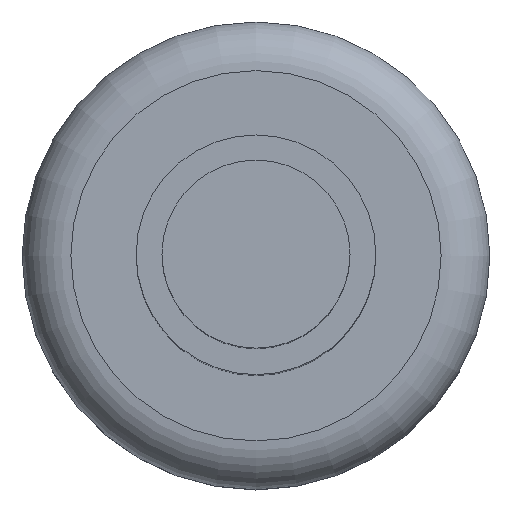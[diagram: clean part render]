
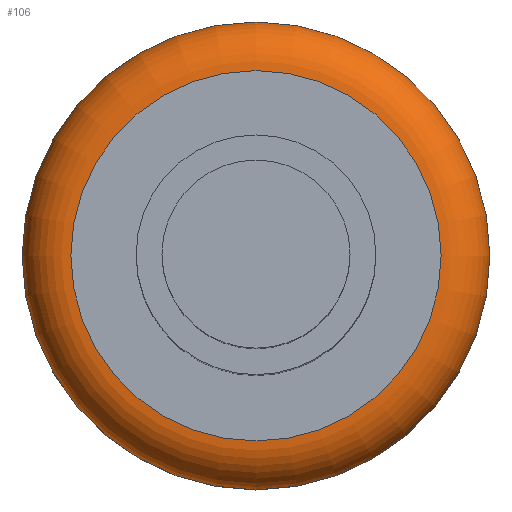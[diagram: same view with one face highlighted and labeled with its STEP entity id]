
A CAD part, top view. The second image highlights one B-rep face of the part: STEP entity #106.
In plain terms, the highlighted toroidal (fillet/blend) face has major radius 1.9 mm and minor radius 0.5 mm.
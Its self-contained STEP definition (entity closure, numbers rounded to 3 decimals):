
#35=TOROIDAL_SURFACE('',#280,1.9,0.5);
#106=ADVANCED_FACE('',(#124,#125),#35,.T.);
#124=FACE_BOUND('',#148,.T.);
#125=FACE_BOUND('',#149,.T.);
#148=EDGE_LOOP('',(#200));
#149=EDGE_LOOP('',(#201));
#200=ORIENTED_EDGE('',*,*,#225,.F.);
#201=ORIENTED_EDGE('',*,*,#226,.F.);
#205=VERTEX_POINT('',#359);
#206=VERTEX_POINT('',#362);
#225=EDGE_CURVE('',#205,#205,#251,.T.);
#226=EDGE_CURVE('',#206,#206,#252,.T.);
#251=CIRCLE('',#262,2.4);
#252=CIRCLE('',#264,1.9);
#262=AXIS2_PLACEMENT_3D('',#358,#293,#294);
#264=AXIS2_PLACEMENT_3D('',#361,#297,#298);
#280=AXIS2_PLACEMENT_3D('',#411,#347,#348);
#293=DIRECTION('',(0.,0.,-1.));
#294=DIRECTION('',(1.,0.,0.));
#297=DIRECTION('',(0.,0.,1.));
#298=DIRECTION('',(1.,0.,0.));
#347=DIRECTION('',(0.,0.,1.));
#348=DIRECTION('',(1.,0.,0.));
#358=CARTESIAN_POINT('',(0.,0.,1.95));
#359=CARTESIAN_POINT('',(2.4,0.,1.95));
#361=CARTESIAN_POINT('',(0.,0.,2.45));
#362=CARTESIAN_POINT('',(1.9,0.,2.45));
#411=CARTESIAN_POINT('',(0.,0.,1.95));
